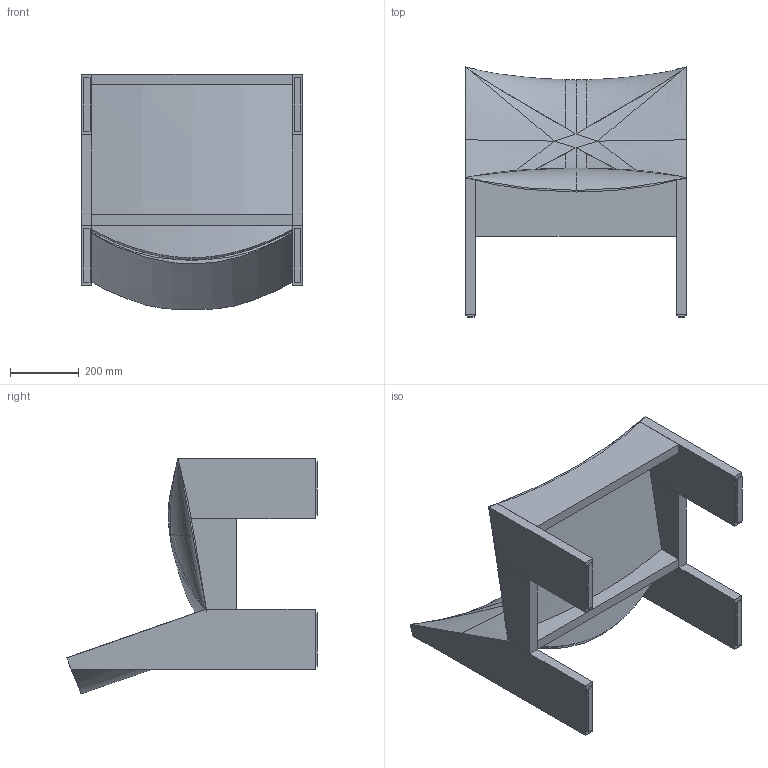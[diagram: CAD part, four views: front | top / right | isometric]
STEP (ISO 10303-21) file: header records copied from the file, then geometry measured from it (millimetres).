
FILE_DESCRIPTION(/* description */ (''),/* implementation_level */ '2;1');
FILE_NAME(/* name */ 'Tenon Lounge Chair',/* time_stamp */ '2025-06-23T14:04:59+02:00',/* author */ (''),/* organization */ (''),/* preprocessor_version */ 'ST-DEVELOPER v19.2',/* originating_system */ 'Rhino 8.19',/* authorisation */ '');
FILE_SCHEMA (('CONFIG_CONTROL_DESIGN'));
Length unit declared in the file: millimetre
Products named in the file (2): Document; Block 07
Bounding box: 645.56 x 729.18 x 687.36 mm (x, y, z)
Volume: 30883315.2 mm3; surface area: 3516737.8 mm2
Topology: 10 solids, 28 shells, 179 faces, 491 edges, 330 vertices
Faces by surface type: plane 137, bspline 42
Entity records: 35024 total; most frequent: CARTESIAN_POINT 31466, ORIENTED_EDGE 854, B_SPLINE_CURVE_WITH_KNOTS 473, EDGE_CURVE 470, VERTEX_POINT 324, ADVANCED_FACE 179, FACE_OUTER_BOUND 179, EDGE_LOOP 179
